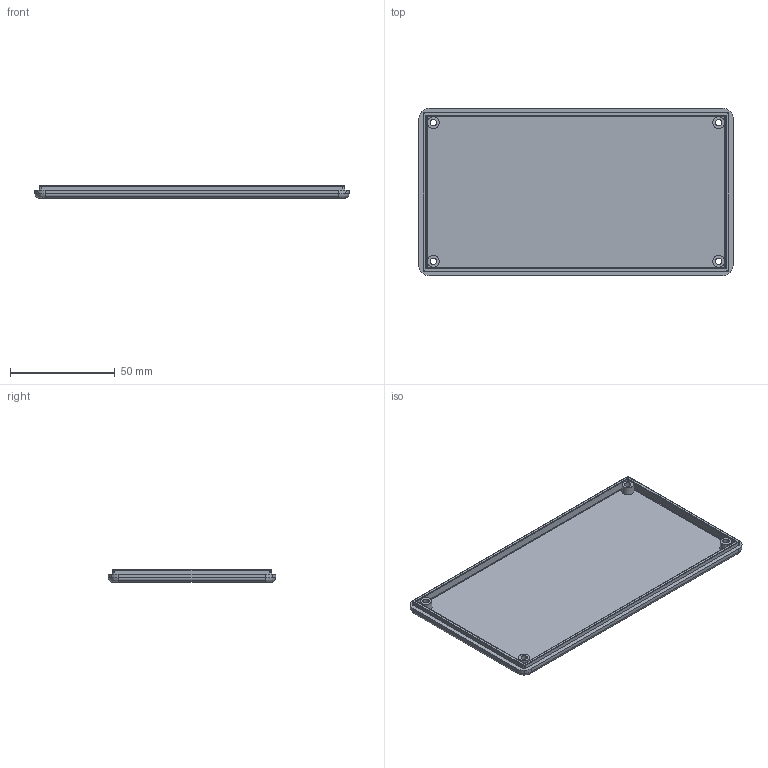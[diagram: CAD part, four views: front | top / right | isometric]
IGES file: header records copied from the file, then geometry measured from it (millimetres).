
Global section: file name: No Iges File Name specified; native system: AutoDesk Inventor R10; preprocessor: AutoDesk Inventor Iges Exporter R10; author: No Author specified; organization: No Organization specified; date: 20060220.094848; units: millimetre
Bounding box: 150 x 80 x 5.8 mm (x, y, z)
Volume: 26857.3 mm3; surface area: 28083.4 mm2
Topology: 1 solids, 1 shells, 108 faces, 252 edges, 152 vertices
Faces by surface type: cylinder 40, bspline 24, plane 20, revolution 16, cone 8
